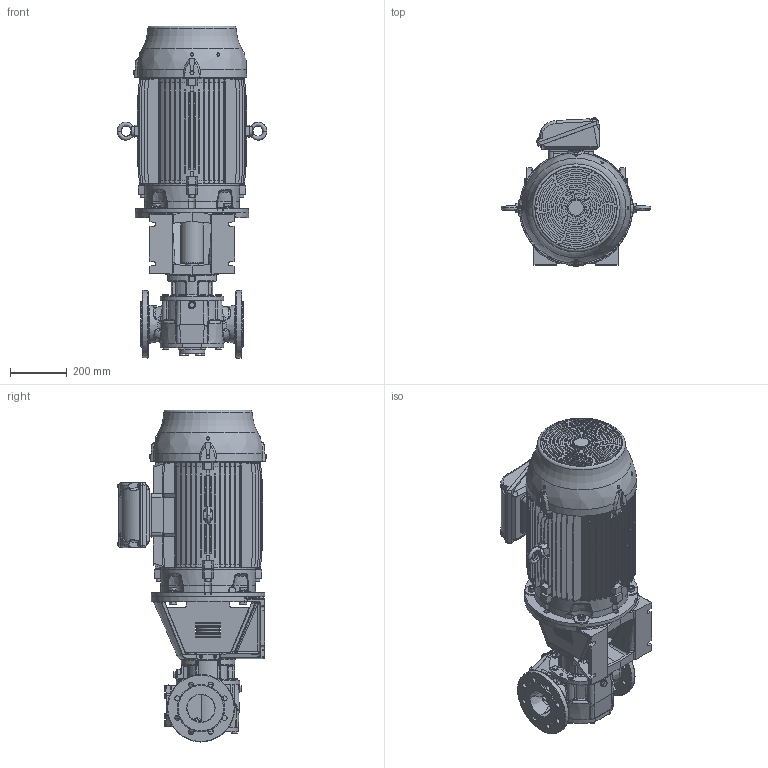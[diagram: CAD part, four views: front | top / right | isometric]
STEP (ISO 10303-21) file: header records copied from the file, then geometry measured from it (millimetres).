
FILE_DESCRIPTION(/* description */ (''),/* implementation_level */ '2;1');
FILE_NAME(/* name */ 'C:\V\JPP\Designs\GEAR PUMPS\PRODUCT ENGINEERING\EUROPE\TG BLOC\TG BLOC_86-100_R5_O_NRV-_200L-STEP.stp',/* time_stamp */ '2021-03-19T14:55:17+01:00',/* author */ ('A77THR'),/* organization */ (''),/* preprocessor_version */ 'ST-DEVELOPER v18.1',/* originating_system */ 'Autodesk Inventor 2020',/* authorisation */ '');
FILE_SCHEMA (('AUTOMOTIVE_DESIGN { 1 0 10303 214 3 1 1 }'));
Length unit declared in the file: millimetre
Products named in the file (1): TG BLOC_86-100_R5_O_NRV-_200L
Bounding box: 527.98 x 525.98 x 1170.26 mm (x, y, z)
Volume: 83607304.2 mm3; surface area: 3500063.5 mm2
Topology: 1 solids, 1 shells, 4585 faces, 12253 edges, 7805 vertices
Faces by surface type: plane 1792, cylinder 1105, bspline 982, cone 524, torus 136, sphere 46
Full cylindrical faces by diameter (mm): 4 x1, 4.5 x4, 4.917 x4, 6.647 x1, 7.323 x6, 7.444 x3, 8 x9, 9 x8, 9.188 x8, 10 x16, 10.106 x7, 10.2 x2, 11 x8, 11.053 x4, 11.4 x6, 11.445 x2, 11.6 x3, 12 x4, 13 x1, 13.157 x2, 13.2 x2, 14 x8, 15.011 x2, 15.4 x8, 17.2 x20, 18 x23, 19 x6, 21.939 x2, 22 x4, 23 x2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
Entity records: 205182 total; most frequent: CARTESIAN_POINT 93727, ORIENTED_EDGE 24298, DIRECTION 20164, EDGE_CURVE 12149, AXIS2_PLACEMENT_3D 7848, VERTEX_POINT 7805, EDGE_LOOP 4964, FACE_OUTER_BOUND 4585
